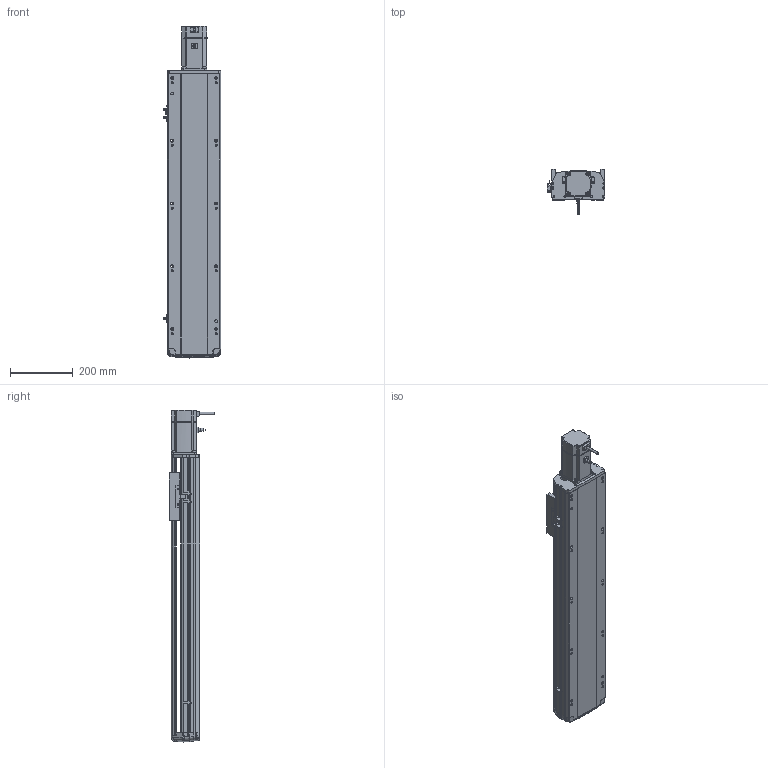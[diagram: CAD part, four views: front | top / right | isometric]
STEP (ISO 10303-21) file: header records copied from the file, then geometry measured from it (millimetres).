
FILE_DESCRIPTION (( 'STEP AP214' ), '1' );
FILE_NAME ('RTH17-XX-650-E-M75-C4.STEP', '2025-10-24T09:38:22', ( '' ), ( '' ), 'SwSTEP 2.0', 'SolidWorks 2018', '' );
FILE_SCHEMA (( 'AUTOMOTIVE_DESIGN' ));
Length unit declared in the file: millimetre
Products named in the file (9): N_RTH17-E-008-P75电机板^RTH17-XX-XX-E-M75-C4（方程式）; N_M75^RTH17-XX-XX-E-M75-C4（方程式）; N_RTH17-GY-001P^RTH17-XX-XX-E-M75-C4（方程式）; N_RTH17-E-011底座^RTH17-XX-XX-E-M75-C4（方程式）; N_RTH17-E-004丝杆螺母连接座^RTH17-XX-XX-E-M75-C4（方程式）; N_RTH17-E-007上盖^RTH17-XX-XX-E-M75-C4（方程式）; N_OMRON EE-SX672 換覜ん^RTH17-XX-XX-E-M75-C4ㄗ源最宒ㄘ; RTH17-XX-650-E-M75-C4; N_RTH-L-012 感应片(外置)^RTH17-XX-XX-E-M75-C4（方程式）
Assembly tree (10 placements, depth 2):
  RTH17-XX-650-E-M75-C4
    N_RTH17-E-011底座^RTH17-XX-XX-E-M75-C4（方程式）
    N_RTH17-E-007上盖^RTH17-XX-XX-E-M75-C4（方程式）
    N_M75^RTH17-XX-XX-E-M75-C4（方程式）
    N_RTH17-E-008-P75电机板^RTH17-XX-XX-E-M75-C4（方程式）
    N_OMRON EE-SX672 換覜ん^RTH17-XX-XX-E-M75-C4ㄗ源最宒ㄘ  x3
    N_RTH-L-012 感应片(外置)^RTH17-XX-XX-E-M75-C4（方程式）
    N_RTH17-E-004丝杆螺母连接座^RTH17-XX-XX-E-M75-C4（方程式）
    N_RTH17-GY-001P^RTH17-XX-XX-E-M75-C4（方程式）
Bounding box: 183.5 x 145.7 x 1058.19 mm (x, y, z)
Volume: 7831143 mm3; surface area: 1031100.8 mm2
Topology: 9 solids, 11 shells, 1764 faces, 4875 edges, 3158 vertices
Faces by surface type: plane 822, cylinder 528, bspline 377, cone 28, torus 9
Entity records: 51766 total; most frequent: CARTESIAN_POINT 20409, ORIENTED_EDGE 6774, DIRECTION 5687, EDGE_CURVE 3391, VERTEX_POINT 2194, AXIS2_PLACEMENT_3D 1931, LINE 1825, VECTOR 1825
